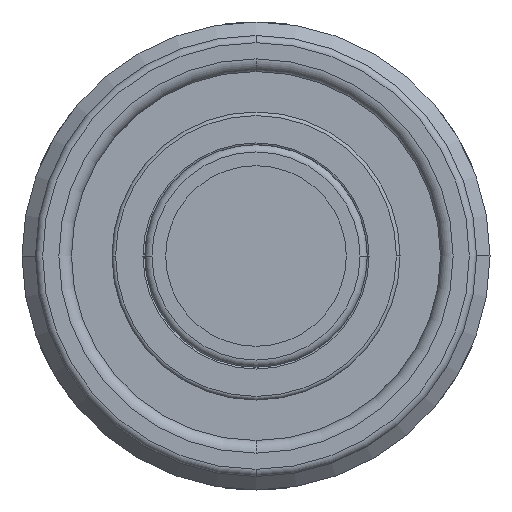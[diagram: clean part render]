
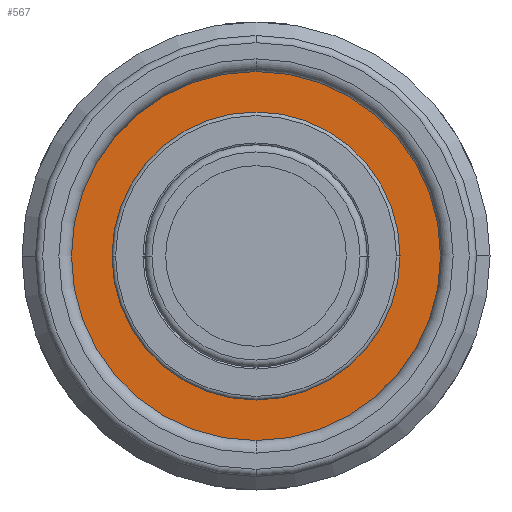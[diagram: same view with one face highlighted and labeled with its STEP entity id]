
A CAD part, front view. The second image highlights one B-rep face of the part: STEP entity #567.
In plain terms, the highlighted planar face has unit normal (0, -1, 0).
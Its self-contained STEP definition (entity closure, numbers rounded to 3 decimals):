
#168=PLANE('',#2373);
#206=FACE_BOUND('',#865,.T.);
#207=FACE_BOUND('',#866,.T.);
#567=ADVANCED_FACE('',(#206,#207),#168,.F.);
#865=EDGE_LOOP('',(#1337,#1338));
#866=EDGE_LOOP('',(#1339,#1340));
#1337=ORIENTED_EDGE('',*,*,#1891,.T.);
#1338=ORIENTED_EDGE('',*,*,#1866,.T.);
#1339=ORIENTED_EDGE('',*,*,#1876,.T.);
#1340=ORIENTED_EDGE('',*,*,#1890,.T.);
#1619=VERTEX_POINT('',#3835);
#1620=VERTEX_POINT('',#3836);
#1625=VERTEX_POINT('',#3853);
#1626=VERTEX_POINT('',#3855);
#1866=EDGE_CURVE('',#1619,#1620,#2072,.T.);
#1876=EDGE_CURVE('',#1626,#1625,#2079,.T.);
#1890=EDGE_CURVE('',#1625,#1626,#2090,.T.);
#1891=EDGE_CURVE('',#1620,#1619,#2091,.T.);
#2072=CIRCLE('',#2341,11.9);
#2079=CIRCLE('',#2351,8.);
#2090=CIRCLE('',#2370,8.);
#2091=CIRCLE('',#2372,11.9);
#2341=AXIS2_PLACEMENT_3D('',#3834,#2942,#2943);
#2351=AXIS2_PLACEMENT_3D('',#3854,#2965,#2966);
#2370=AXIS2_PLACEMENT_3D('',#3881,#3006,#3007);
#2372=AXIS2_PLACEMENT_3D('',#3883,#3010,#3011);
#2373=AXIS2_PLACEMENT_3D('',#3884,#3012,#3013);
#2942=DIRECTION('',(0.,-1.,0.));
#2943=DIRECTION('',(-1.,0.,0.));
#2965=DIRECTION('',(0.,1.,0.));
#2966=DIRECTION('',(-1.,0.,0.));
#3006=DIRECTION('',(0.,1.,0.));
#3007=DIRECTION('',(-1.,0.,0.));
#3010=DIRECTION('',(0.,-1.,0.));
#3011=DIRECTION('',(-1.,0.,0.));
#3012=DIRECTION('',(0.,1.,0.));
#3013=DIRECTION('',(-1.,0.,0.));
#3834=CARTESIAN_POINT('',(0.,19.9,0.));
#3835=CARTESIAN_POINT('',(11.9,19.9,0.));
#3836=CARTESIAN_POINT('',(-11.9,19.9,0.));
#3853=CARTESIAN_POINT('',(8.,19.9,0.));
#3854=CARTESIAN_POINT('',(0.,19.9,0.));
#3855=CARTESIAN_POINT('',(-8.,19.9,0.));
#3881=CARTESIAN_POINT('',(0.,19.9,0.));
#3883=CARTESIAN_POINT('',(0.,19.9,0.));
#3884=CARTESIAN_POINT('',(8.,19.9,0.));
